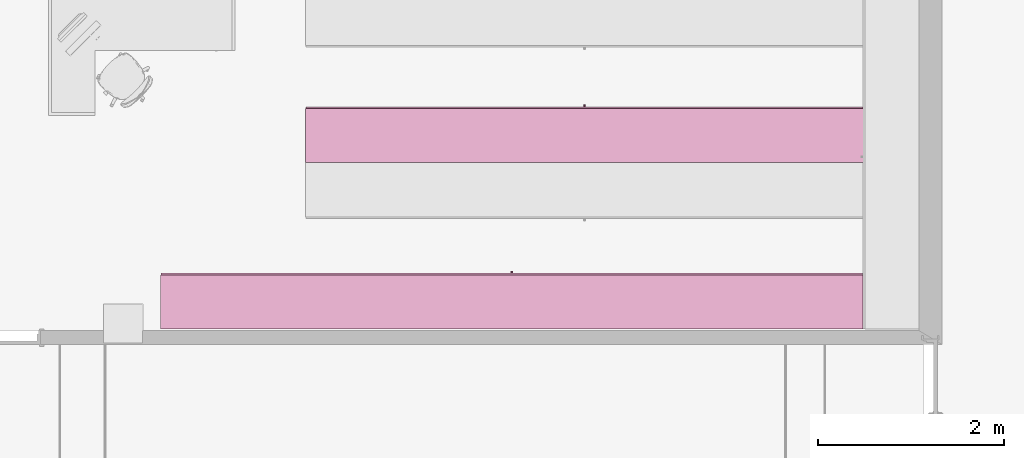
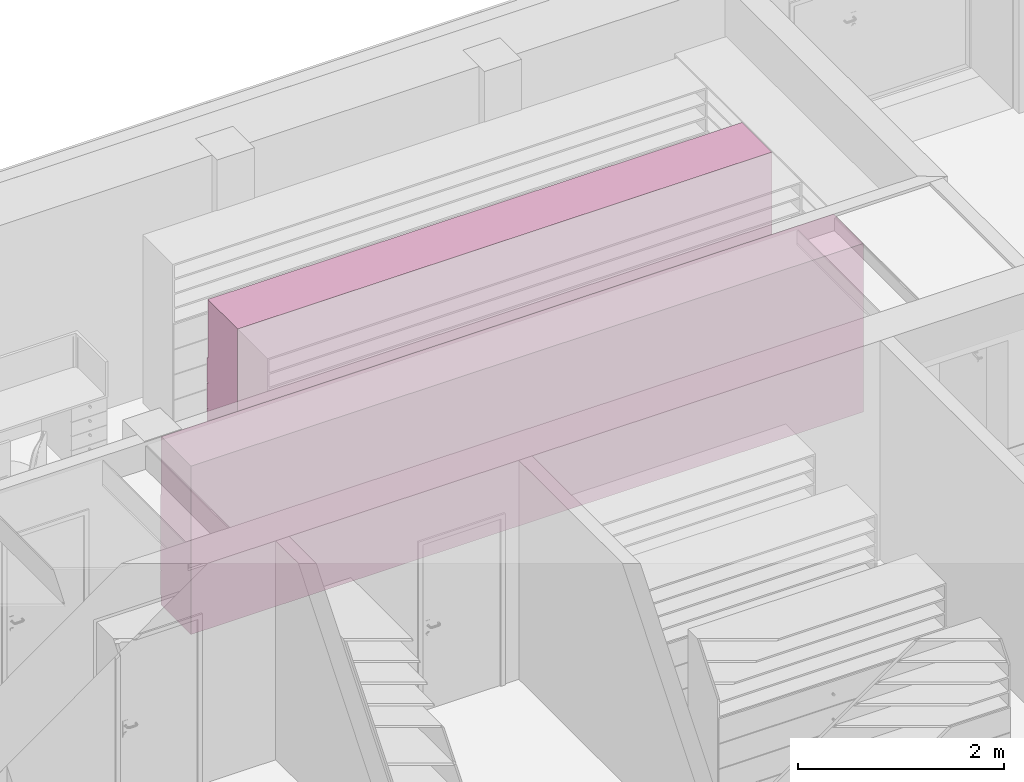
# One storey, part 112 of 127: 2 furnishings.
"""IFC2X3 building model written with IfcOpenShell, lengths in millimetres."""

from ifc_helpers import new_model, entity, si_unit, converted_unit, derived_unit, money_unit, direction, frame, origin_with_axes, place, context, subcontext, project, spatial, faceted_brep, type_object, element, save


model = new_model("IFC2X3")

# Units and contexts
model_context = context("Model", 3, precision=1e-05, world=origin_with_axes(), true_north=direction((0.0, 1.0)))
body_context = subcontext(model_context, "Body", "Model", "MODEL_VIEW")
ifc_project = project(units=[si_unit("LENGTHUNIT", "METRE", prefix="MILLI"), si_unit("AREAUNIT", "SQUARE_METRE"), si_unit("VOLUMEUNIT", "CUBIC_METRE"), converted_unit("PLANEANGLEUNIT", "DEGREE", entity("IfcPlaneAngleMeasure", 0.0174532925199), si_unit("PLANEANGLEUNIT", "RADIAN"), dimensions=[0, 0, 0, 0, 0, 0, 0]), si_unit("SOLIDANGLEUNIT", "STERADIAN"), money_unit("EUR"), converted_unit("TIMEUNIT", "Year", entity("IfcTimeMeasure", 31556926.0), si_unit("TIMEUNIT", "SECOND"), dimensions=[0, 0, 1, 0, 0, 0, 0]), si_unit("MASSUNIT", "GRAM", prefix="KILO"), si_unit("THERMODYNAMICTEMPERATUREUNIT", "DEGREE_CELSIUS"), si_unit("LUMINOUSINTENSITYUNIT", "LUMEN"), si_unit("ENERGYUNIT", "JOULE", prefix="MEGA"), derived_unit("THERMALCONDUCTANCEUNIT", [(si_unit("POWERUNIT", "WATT"), 1), (si_unit("LENGTHUNIT", "METRE"), -1), (si_unit("THERMODYNAMICTEMPERATUREUNIT", "KELVIN"), -1)]), derived_unit("SPECIFICHEATCAPACITYUNIT", [(si_unit("ENERGYUNIT", "JOULE"), 1), (si_unit("MASSUNIT", "GRAM", prefix="KILO"), -1), (si_unit("THERMODYNAMICTEMPERATUREUNIT", "KELVIN"), -1)]), derived_unit("MASSDENSITYUNIT", [(si_unit("MASSUNIT", "GRAM", prefix="KILO"), 1), (si_unit("VOLUMEUNIT", "CUBIC_METRE"), -1)])], contexts=[model_context])

# Site, building, storey
site_placement = place(None, origin_with_axes())
site = spatial("IfcSite", under=ifc_project, at=site_placement, Name="Site", CompositionType="ELEMENT")
building_placement = place(site_placement, origin_with_axes())
building = spatial("IfcBuilding", under=site, at=building_placement, Name="Building", CompositionType="ELEMENT")
storey_placement = place(building_placement, origin_with_axes())
storey = spatial("IfcBuildingStorey", under=building, at=storey_placement, Name="1 KORRUS", CompositionType="ELEMENT", Elevation=0.0)

# Furnishings
furnishing_element_type_1 = type_object("IfcFurnishingElementType", Name="Model Element 40")
furnishing_1_placement = place(storey_placement, frame((38908.1789758, 69853.6434458, 0.0), z_axis=(0.0, 0.0, 1.0), x_axis=(-1.0, 0.0, 0.0)))
element("IfcFurnishingElement", 1, at=furnishing_1_placement, inside=storey, type_object=furnishing_element_type_1, Name="FU - 003", context=body_context, shape_type="Brep", body=[
    faceted_brep([(6000.0, 19.0, 0.0), (0.0, 19.0, 0.0), (0.0, 600.000000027, 0.0), (6000.0, 600.000000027, 0.0), (6000.0, 19.0, 100.0), (0.0, 19.0, 100.0), (0.0, 600.000000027, 100.0), (6000.0, 600.000000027, 100.0)], [[[0, 1, 2, 3]], [[1, 0, 4, 5]], [[2, 1, 5, 6]], [[3, 2, 6, 7]], [[0, 3, 7, 4]], [[5, 4, 7, 6]]]),
    faceted_brep([(19.0, 600.000000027, 119.0), (19.0, 581.000000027, 119.0), (19.0, 581.000000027, 1981.0), (19.0, 600.000000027, 1981.0), (5981.0, 600.000000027, 119.0), (5981.0, 581.000000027, 119.0), (5981.0, 581.000000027, 1981.0), (5981.0, 600.000000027, 1981.0)], [[[0, 1, 2, 3]], [[0, 4, 5, 1]], [[1, 5, 6, 2]], [[3, 2, 6, 7]], [[4, 0, 3, 7]], [[5, 4, 7, 6]]]),
    faceted_brep([(6000.0, 19.0, 100.0), (5981.0, 19.0, 100.0), (5981.0, 600.000000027, 100.0), (6000.0, 600.000000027, 100.0), (6000.0, 19.0, 2000.0), (5981.0, 19.0, 2000.0), (5981.0, 600.000000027, 2000.0), (6000.0, 600.000000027, 2000.0)], [[[0, 1, 2, 3]], [[1, 0, 4, 5]], [[2, 1, 5, 6]], [[3, 2, 6, 7]], [[0, 3, 7, 4]], [[5, 4, 7, 6]]]),
    faceted_brep([(19.0, 19.0, 100.0), (0.0, 19.0, 100.0), (0.0, 600.000000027, 100.0), (19.0, 600.000000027, 100.0), (19.0, 19.0, 2000.0), (0.0, 19.0, 2000.0), (0.0, 600.000000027, 2000.0), (19.0, 600.000000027, 2000.0)], [[[0, 1, 2, 3]], [[1, 0, 4, 5]], [[2, 1, 5, 6]], [[3, 2, 6, 7]], [[0, 3, 7, 4]], [[5, 4, 7, 6]]]),
    faceted_brep([(5981.0, 19.0, 100.0), (19.0, 19.0, 100.0), (19.0, 600.000000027, 100.0), (5981.0, 600.000000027, 100.0), (5981.0, 19.0, 119.0), (19.0, 19.0, 119.0), (19.0, 600.000000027, 119.0), (5981.0, 600.000000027, 119.0)], [[[0, 1, 2, 3]], [[1, 0, 4, 5]], [[2, 1, 5, 6]], [[3, 2, 6, 7]], [[0, 3, 7, 4]], [[5, 4, 7, 6]]]),
    faceted_brep([(5981.0, 19.0, 1981.0), (19.0, 19.0, 1981.0), (19.0, 600.000000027, 1981.0), (5981.0, 600.000000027, 1981.0), (5981.0, 19.0, 2000.0), (19.0, 19.0, 2000.0), (19.0, 600.000000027, 2000.0), (5981.0, 600.000000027, 2000.0)], [[[0, 1, 2, 3]], [[1, 0, 4, 5]], [[2, 1, 5, 6]], [[3, 2, 6, 7]], [[0, 3, 7, 4]], [[5, 4, 7, 6]]]),
    faceted_brep([(5.0, 19.0, 105.0), (5995.0, 19.0, 105.0), (5995.0, 0.0, 105.0), (5.0, 0.0, 105.0), (5.0, 19.0, 395.0), (5995.0, 19.0, 395.0), (5995.0, 0.0, 395.0), (5.0, 0.0, 395.0)], [[[0, 1, 2, 3]], [[0, 4, 5, 1]], [[1, 5, 6, 2]], [[3, 2, 6, 7]], [[4, 0, 3, 7]], [[5, 4, 7, 6]]]),
    faceted_brep([(3010.39230485, 0.0, 244.0), (3006.0, 0.0, 239.607695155), (3000.0, 0.0, 238.0), (2994.0, 0.0, 239.607695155), (2989.60769515, 0.0, 244.0), (2988.0, 0.0, 250.0), (2989.60769515, 0.0, 256.0), (2994.0, 0.0, 260.392304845), (3000.0, 0.0, 262.0), (3006.0, 0.0, 260.392304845), (3010.39230485, 0.0, 256.0), (3012.0, 0.0, 250.0), (3010.39230485, -25.0, 244.0), (3006.0, -25.0, 239.607695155), (3000.0, -25.0, 238.0), (2994.0, -25.0, 239.607695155), (2989.60769515, -25.0, 244.0), (2988.0, -25.0, 250.0), (2989.60769515, -25.0, 256.0), (2994.0, -25.0, 260.392304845), (3000.0, -25.0, 262.0), (3006.0, -25.0, 260.392304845), (3010.39230485, -25.0, 256.0), (3012.0, -25.0, 250.0)], [[[0, 1, 2, 3, 4, 5, 6, 7, 8, 9, 10, 11]], [[1, 0, 12, 13]], [[2, 1, 13, 14]], [[3, 2, 14, 15]], [[4, 3, 15, 16]], [[5, 4, 16, 17]], [[6, 5, 17, 18]], [[7, 6, 18, 19]], [[8, 7, 19, 20]], [[9, 8, 20, 21]], [[10, 9, 21, 22]], [[11, 10, 22, 23]], [[0, 11, 23, 12]], [[12, 23, 22, 21, 20, 19, 18, 17, 16, 15, 14, 13]]]),
    faceted_brep([(5.0, 19.0, 405.0), (5995.0, 19.0, 405.0), (5995.0, 0.0, 405.0), (5.0, 0.0, 405.0), (5.0, 19.0, 695.0), (5995.0, 19.0, 695.0), (5995.0, 0.0, 695.0), (5.0, 0.0, 695.0)], [[[0, 1, 2, 3]], [[0, 4, 5, 1]], [[1, 5, 6, 2]], [[3, 2, 6, 7]], [[4, 0, 3, 7]], [[5, 4, 7, 6]]]),
    faceted_brep([(3010.39230485, 0.0, 544.0), (3006.0, 0.0, 539.607695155), (3000.0, 0.0, 538.0), (2994.0, 0.0, 539.607695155), (2989.60769515, 0.0, 544.0), (2988.0, 0.0, 550.0), (2989.60769515, 0.0, 556.0), (2994.0, 0.0, 560.392304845), (3000.0, 0.0, 562.0), (3006.0, 0.0, 560.392304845), (3010.39230485, 0.0, 556.0), (3012.0, 0.0, 550.0), (3010.39230485, -25.0, 544.0), (3006.0, -25.0, 539.607695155), (3000.0, -25.0, 538.0), (2994.0, -25.0, 539.607695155), (2989.60769515, -25.0, 544.0), (2988.0, -25.0, 550.0), (2989.60769515, -25.0, 556.0), (2994.0, -25.0, 560.392304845), (3000.0, -25.0, 562.0), (3006.0, -25.0, 560.392304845), (3010.39230485, -25.0, 556.0), (3012.0, -25.0, 550.0)], [[[0, 1, 2, 3, 4, 5, 6, 7, 8, 9, 10, 11]], [[1, 0, 12, 13]], [[2, 1, 13, 14]], [[3, 2, 14, 15]], [[4, 3, 15, 16]], [[5, 4, 16, 17]], [[6, 5, 17, 18]], [[7, 6, 18, 19]], [[8, 7, 19, 20]], [[9, 8, 20, 21]], [[10, 9, 21, 22]], [[11, 10, 22, 23]], [[0, 11, 23, 12]], [[12, 23, 22, 21, 20, 19, 18, 17, 16, 15, 14, 13]]]),
    faceted_brep([(5.0, 19.0, 705.0), (5995.0, 19.0, 705.0), (5995.0, 0.0, 705.0), (5.0, 0.0, 705.0), (5.0, 19.0, 995.0), (5995.0, 19.0, 995.0), (5995.0, 0.0, 995.0), (5.0, 0.0, 995.0)], [[[0, 1, 2, 3]], [[0, 4, 5, 1]], [[1, 5, 6, 2]], [[3, 2, 6, 7]], [[4, 0, 3, 7]], [[5, 4, 7, 6]]]),
    faceted_brep([(3010.39230485, 0.0, 844.0), (3006.0, 0.0, 839.607695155), (3000.0, 0.0, 838.0), (2994.0, 0.0, 839.607695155), (2989.60769515, 0.0, 844.0), (2988.0, 0.0, 850.0), (2989.60769515, 0.0, 856.0), (2994.0, 0.0, 860.392304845), (3000.0, 0.0, 862.0), (3006.0, 0.0, 860.392304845), (3010.39230485, 0.0, 856.0), (3012.0, 0.0, 850.0), (3010.39230485, -25.0, 844.0), (3006.0, -25.0, 839.607695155), (3000.0, -25.0, 838.0), (2994.0, -25.0, 839.607695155), (2989.60769515, -25.0, 844.0), (2988.0, -25.0, 850.0), (2989.60769515, -25.0, 856.0), (2994.0, -25.0, 860.392304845), (3000.0, -25.0, 862.0), (3006.0, -25.0, 860.392304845), (3010.39230485, -25.0, 856.0), (3012.0, -25.0, 850.0)], [[[0, 1, 2, 3, 4, 5, 6, 7, 8, 9, 10, 11]], [[1, 0, 12, 13]], [[2, 1, 13, 14]], [[3, 2, 14, 15]], [[4, 3, 15, 16]], [[5, 4, 16, 17]], [[6, 5, 17, 18]], [[7, 6, 18, 19]], [[8, 7, 19, 20]], [[9, 8, 20, 21]], [[10, 9, 21, 22]], [[11, 10, 22, 23]], [[0, 11, 23, 12]], [[12, 23, 22, 21, 20, 19, 18, 17, 16, 15, 14, 13]]]),
    faceted_brep([(5.0, 19.0, 1005.0), (5995.0, 19.0, 1005.0), (5995.0, 0.0, 1005.0), (5.0, 0.0, 1005.0), (5.0, 19.0, 1295.0), (5995.0, 19.0, 1295.0), (5995.0, 0.0, 1295.0), (5.0, 0.0, 1295.0)], [[[0, 1, 2, 3]], [[0, 4, 5, 1]], [[1, 5, 6, 2]], [[3, 2, 6, 7]], [[4, 0, 3, 7]], [[5, 4, 7, 6]]]),
    faceted_brep([(3010.39230485, 0.0, 1144.0), (3006.0, 0.0, 1139.60769515), (3000.0, 0.0, 1138.0), (2994.0, 0.0, 1139.60769515), (2989.60769515, 0.0, 1144.0), (2988.0, 0.0, 1150.0), (2989.60769515, 0.0, 1156.0), (2994.0, 0.0, 1160.39230485), (3000.0, 0.0, 1162.0), (3006.0, 0.0, 1160.39230485), (3010.39230485, 0.0, 1156.0), (3012.0, 0.0, 1150.0), (3010.39230485, -25.0, 1144.0), (3006.0, -25.0, 1139.60769515), (3000.0, -25.0, 1138.0), (2994.0, -25.0, 1139.60769515), (2989.60769515, -25.0, 1144.0), (2988.0, -25.0, 1150.0), (2989.60769515, -25.0, 1156.0), (2994.0, -25.0, 1160.39230485), (3000.0, -25.0, 1162.0), (3006.0, -25.0, 1160.39230485), (3010.39230485, -25.0, 1156.0), (3012.0, -25.0, 1150.0)], [[[0, 1, 2, 3, 4, 5, 6, 7, 8, 9, 10, 11]], [[1, 0, 12, 13]], [[2, 1, 13, 14]], [[3, 2, 14, 15]], [[4, 3, 15, 16]], [[5, 4, 16, 17]], [[6, 5, 17, 18]], [[7, 6, 18, 19]], [[8, 7, 19, 20]], [[9, 8, 20, 21]], [[10, 9, 21, 22]], [[11, 10, 22, 23]], [[0, 11, 23, 12]], [[12, 23, 22, 21, 20, 19, 18, 17, 16, 15, 14, 13]]]),
    faceted_brep([(19.0, 19.0, 390.5), (5981.0, 19.0, 390.5), (5981.0, 19.0, 409.5), (19.0, 19.0, 409.5), (19.0, 581.000000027, 390.5), (5981.0, 581.000000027, 390.5), (5981.0, 581.000000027, 409.5), (19.0, 581.000000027, 409.5)], [[[0, 1, 2, 3]], [[0, 4, 5, 1]], [[1, 5, 6, 2]], [[3, 2, 6, 7]], [[4, 0, 3, 7]], [[5, 4, 7, 6]]]),
    faceted_brep([(19.0, 19.0, 690.5), (5981.0, 19.0, 690.5), (5981.0, 19.0, 709.5), (19.0, 19.0, 709.5), (19.0, 581.000000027, 690.5), (5981.0, 581.000000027, 690.5), (5981.0, 581.000000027, 709.5), (19.0, 581.000000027, 709.5)], [[[0, 1, 2, 3]], [[0, 4, 5, 1]], [[1, 5, 6, 2]], [[3, 2, 6, 7]], [[4, 0, 3, 7]], [[5, 4, 7, 6]]]),
    faceted_brep([(19.0, 19.0, 990.5), (5981.0, 19.0, 990.5), (5981.0, 19.0, 1009.5), (19.0, 19.0, 1009.5), (19.0, 581.000000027, 990.5), (5981.0, 581.000000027, 990.5), (5981.0, 581.000000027, 1009.5), (19.0, 581.000000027, 1009.5)], [[[0, 1, 2, 3]], [[0, 4, 5, 1]], [[1, 5, 6, 2]], [[3, 2, 6, 7]], [[4, 0, 3, 7]], [[5, 4, 7, 6]]]),
    faceted_brep([(19.0, 19.0, 1290.5), (5981.0, 19.0, 1290.5), (5981.0, 19.0, 1309.5), (19.0, 19.0, 1309.5), (19.0, 581.000000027, 1290.5), (5981.0, 581.000000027, 1290.5), (5981.0, 581.000000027, 1309.5), (19.0, 581.000000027, 1309.5)], [[[0, 1, 2, 3]], [[0, 4, 5, 1]], [[1, 5, 6, 2]], [[3, 2, 6, 7]], [[4, 0, 3, 7]], [[5, 4, 7, 6]]]),
    faceted_brep([(5981.0, 19.0, 1463.125), (19.0, 19.0, 1463.125), (19.0, 581.000000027, 1463.125), (5981.0, 581.000000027, 1463.125), (5981.0, 19.0, 1482.125), (19.0, 19.0, 1482.125), (19.0, 581.000000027, 1482.125), (5981.0, 581.000000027, 1482.125)], [[[0, 1, 2, 3]], [[1, 0, 4, 5]], [[2, 1, 5, 6]], [[3, 2, 6, 7]], [[0, 3, 7, 4]], [[5, 4, 7, 6]]]),
    faceted_brep([(5981.0, 19.0, 1635.75), (19.0, 19.0, 1635.75), (19.0, 581.000000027, 1635.75), (5981.0, 581.000000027, 1635.75), (5981.0, 19.0, 1654.75), (19.0, 19.0, 1654.75), (19.0, 581.000000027, 1654.75), (5981.0, 581.000000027, 1654.75)], [[[0, 1, 2, 3]], [[1, 0, 4, 5]], [[2, 1, 5, 6]], [[3, 2, 6, 7]], [[0, 3, 7, 4]], [[5, 4, 7, 6]]]),
    faceted_brep([(5981.0, 19.0, 1808.375), (19.0, 19.0, 1808.375), (19.0, 581.000000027, 1808.375), (5981.0, 581.000000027, 1808.375), (5981.0, 19.0, 1827.375), (19.0, 19.0, 1827.375), (19.0, 581.000000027, 1827.375), (5981.0, 581.000000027, 1827.375)], [[[0, 1, 2, 3]], [[1, 0, 4, 5]], [[2, 1, 5, 6]], [[3, 2, 6, 7]], [[0, 3, 7, 4]], [[5, 4, 7, 6]]]),
])
furnishing_element_type_2 = type_object("IfcFurnishingElementType", Name="Model Element 39")
furnishing_2_placement = place(storey_placement, frame((38904.3426409, 68066.3044404, 0.0), z_axis=(0.0, 0.0, 1.0), x_axis=(-1.0, 0.0, 0.0)))
element("IfcFurnishingElement", 2, at=furnishing_2_placement, inside=storey, type_object=furnishing_element_type_2, Name="FU - 003", context=body_context, shape_type="Brep", body=[
    faceted_brep([(7552.18298721, 19.0, 0.0), (0.0, 19.0, 0.0), (0.0, 600.000000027, 0.0), (7552.18298721, 600.000000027, 0.0), (7552.18298721, 19.0, 100.0), (0.0, 19.0, 100.0), (0.0, 600.000000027, 100.0), (7552.18298721, 600.000000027, 100.0)], [[[0, 1, 2, 3]], [[1, 0, 4, 5]], [[2, 1, 5, 6]], [[3, 2, 6, 7]], [[0, 3, 7, 4]], [[5, 4, 7, 6]]]),
    faceted_brep([(19.0, 600.000000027, 119.0), (19.0, 581.000000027, 119.0), (19.0, 581.000000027, 1981.0), (19.0, 600.000000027, 1981.0), (7533.18298721, 600.000000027, 119.0), (7533.18298721, 581.000000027, 119.0), (7533.18298721, 581.000000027, 1981.0), (7533.18298721, 600.000000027, 1981.0)], [[[0, 1, 2, 3]], [[0, 4, 5, 1]], [[1, 5, 6, 2]], [[3, 2, 6, 7]], [[4, 0, 3, 7]], [[5, 4, 7, 6]]]),
    faceted_brep([(7552.18298721, 19.0, 100.0), (7533.18298721, 19.0, 100.0), (7533.18298721, 600.000000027, 100.0), (7552.18298721, 600.000000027, 100.0), (7552.18298721, 19.0, 2000.0), (7533.18298721, 19.0, 2000.0), (7533.18298721, 600.000000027, 2000.0), (7552.18298721, 600.000000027, 2000.0)], [[[0, 1, 2, 3]], [[1, 0, 4, 5]], [[2, 1, 5, 6]], [[3, 2, 6, 7]], [[0, 3, 7, 4]], [[5, 4, 7, 6]]]),
    faceted_brep([(19.0, 19.0, 100.0), (0.0, 19.0, 100.0), (0.0, 600.000000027, 100.0), (19.0, 600.000000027, 100.0), (19.0, 19.0, 2000.0), (0.0, 19.0, 2000.0), (0.0, 600.000000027, 2000.0), (19.0, 600.000000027, 2000.0)], [[[0, 1, 2, 3]], [[1, 0, 4, 5]], [[2, 1, 5, 6]], [[3, 2, 6, 7]], [[0, 3, 7, 4]], [[5, 4, 7, 6]]]),
    faceted_brep([(7533.18298721, 19.0, 100.0), (19.0, 19.0, 100.0), (19.0, 600.000000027, 100.0), (7533.18298721, 600.000000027, 100.0), (7533.18298721, 19.0, 119.0), (19.0, 19.0, 119.0), (19.0, 600.000000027, 119.0), (7533.18298721, 600.000000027, 119.0)], [[[0, 1, 2, 3]], [[1, 0, 4, 5]], [[2, 1, 5, 6]], [[3, 2, 6, 7]], [[0, 3, 7, 4]], [[5, 4, 7, 6]]]),
    faceted_brep([(7533.18298721, 19.0, 1981.0), (19.0, 19.0, 1981.0), (19.0, 600.000000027, 1981.0), (7533.18298721, 600.000000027, 1981.0), (7533.18298721, 19.0, 2000.0), (19.0, 19.0, 2000.0), (19.0, 600.000000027, 2000.0), (7533.18298721, 600.000000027, 2000.0)], [[[0, 1, 2, 3]], [[1, 0, 4, 5]], [[2, 1, 5, 6]], [[3, 2, 6, 7]], [[0, 3, 7, 4]], [[5, 4, 7, 6]]]),
    faceted_brep([(5.0, 19.0, 105.0), (7547.18298721, 19.0, 105.0), (7547.18298721, 0.0, 105.0), (5.0, 0.0, 105.0), (5.0, 19.0, 395.0), (7547.18298721, 19.0, 395.0), (7547.18298721, 0.0, 395.0), (5.0, 0.0, 395.0)], [[[0, 1, 2, 3]], [[0, 4, 5, 1]], [[1, 5, 6, 2]], [[3, 2, 6, 7]], [[4, 0, 3, 7]], [[5, 4, 7, 6]]]),
    faceted_brep([(3786.48379845, 0.0, 244.0), (3782.0914936, 0.0, 239.607695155), (3776.0914936, 0.0, 238.0), (3770.0914936, 0.0, 239.607695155), (3765.69918876, 0.0, 244.0), (3764.0914936, 0.0, 250.0), (3765.69918876, 0.0, 256.0), (3770.0914936, 0.0, 260.392304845), (3776.0914936, 0.0, 262.0), (3782.0914936, 0.0, 260.392304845), (3786.48379845, 0.0, 256.0), (3788.0914936, 0.0, 250.0), (3786.48379845, -25.0, 244.0), (3782.0914936, -25.0, 239.607695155), (3776.0914936, -25.0, 238.0), (3770.0914936, -25.0, 239.607695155), (3765.69918876, -25.0, 244.0), (3764.0914936, -25.0, 250.0), (3765.69918876, -25.0, 256.0), (3770.0914936, -25.0, 260.392304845), (3776.0914936, -25.0, 262.0), (3782.0914936, -25.0, 260.392304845), (3786.48379845, -25.0, 256.0), (3788.0914936, -25.0, 250.0)], [[[0, 1, 2, 3, 4, 5, 6, 7, 8, 9, 10, 11]], [[1, 0, 12, 13]], [[2, 1, 13, 14]], [[3, 2, 14, 15]], [[4, 3, 15, 16]], [[5, 4, 16, 17]], [[6, 5, 17, 18]], [[7, 6, 18, 19]], [[8, 7, 19, 20]], [[9, 8, 20, 21]], [[10, 9, 21, 22]], [[11, 10, 22, 23]], [[0, 11, 23, 12]], [[12, 23, 22, 21, 20, 19, 18, 17, 16, 15, 14, 13]]]),
    faceted_brep([(5.0, 19.0, 405.0), (7547.18298721, 19.0, 405.0), (7547.18298721, 0.0, 405.0), (5.0, 0.0, 405.0), (5.0, 19.0, 695.0), (7547.18298721, 19.0, 695.0), (7547.18298721, 0.0, 695.0), (5.0, 0.0, 695.0)], [[[0, 1, 2, 3]], [[0, 4, 5, 1]], [[1, 5, 6, 2]], [[3, 2, 6, 7]], [[4, 0, 3, 7]], [[5, 4, 7, 6]]]),
    faceted_brep([(3786.48379845, 0.0, 544.0), (3782.0914936, 0.0, 539.607695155), (3776.0914936, 0.0, 538.0), (3770.0914936, 0.0, 539.607695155), (3765.69918876, 0.0, 544.0), (3764.0914936, 0.0, 550.0), (3765.69918876, 0.0, 556.0), (3770.0914936, 0.0, 560.392304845), (3776.0914936, 0.0, 562.0), (3782.0914936, 0.0, 560.392304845), (3786.48379845, 0.0, 556.0), (3788.0914936, 0.0, 550.0), (3786.48379845, -25.0, 544.0), (3782.0914936, -25.0, 539.607695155), (3776.0914936, -25.0, 538.0), (3770.0914936, -25.0, 539.607695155), (3765.69918876, -25.0, 544.0), (3764.0914936, -25.0, 550.0), (3765.69918876, -25.0, 556.0), (3770.0914936, -25.0, 560.392304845), (3776.0914936, -25.0, 562.0), (3782.0914936, -25.0, 560.392304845), (3786.48379845, -25.0, 556.0), (3788.0914936, -25.0, 550.0)], [[[0, 1, 2, 3, 4, 5, 6, 7, 8, 9, 10, 11]], [[1, 0, 12, 13]], [[2, 1, 13, 14]], [[3, 2, 14, 15]], [[4, 3, 15, 16]], [[5, 4, 16, 17]], [[6, 5, 17, 18]], [[7, 6, 18, 19]], [[8, 7, 19, 20]], [[9, 8, 20, 21]], [[10, 9, 21, 22]], [[11, 10, 22, 23]], [[0, 11, 23, 12]], [[12, 23, 22, 21, 20, 19, 18, 17, 16, 15, 14, 13]]]),
    faceted_brep([(5.0, 19.0, 705.0), (7547.18298721, 19.0, 705.0), (7547.18298721, 0.0, 705.0), (5.0, 0.0, 705.0), (5.0, 19.0, 995.0), (7547.18298721, 19.0, 995.0), (7547.18298721, 0.0, 995.0), (5.0, 0.0, 995.0)], [[[0, 1, 2, 3]], [[0, 4, 5, 1]], [[1, 5, 6, 2]], [[3, 2, 6, 7]], [[4, 0, 3, 7]], [[5, 4, 7, 6]]]),
    faceted_brep([(3786.48379845, 0.0, 844.0), (3782.0914936, 0.0, 839.607695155), (3776.0914936, 0.0, 838.0), (3770.0914936, 0.0, 839.607695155), (3765.69918876, 0.0, 844.0), (3764.0914936, 0.0, 850.0), (3765.69918876, 0.0, 856.0), (3770.0914936, 0.0, 860.392304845), (3776.0914936, 0.0, 862.0), (3782.0914936, 0.0, 860.392304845), (3786.48379845, 0.0, 856.0), (3788.0914936, 0.0, 850.0), (3786.48379845, -25.0, 844.0), (3782.0914936, -25.0, 839.607695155), (3776.0914936, -25.0, 838.0), (3770.0914936, -25.0, 839.607695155), (3765.69918876, -25.0, 844.0), (3764.0914936, -25.0, 850.0), (3765.69918876, -25.0, 856.0), (3770.0914936, -25.0, 860.392304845), (3776.0914936, -25.0, 862.0), (3782.0914936, -25.0, 860.392304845), (3786.48379845, -25.0, 856.0), (3788.0914936, -25.0, 850.0)], [[[0, 1, 2, 3, 4, 5, 6, 7, 8, 9, 10, 11]], [[1, 0, 12, 13]], [[2, 1, 13, 14]], [[3, 2, 14, 15]], [[4, 3, 15, 16]], [[5, 4, 16, 17]], [[6, 5, 17, 18]], [[7, 6, 18, 19]], [[8, 7, 19, 20]], [[9, 8, 20, 21]], [[10, 9, 21, 22]], [[11, 10, 22, 23]], [[0, 11, 23, 12]], [[12, 23, 22, 21, 20, 19, 18, 17, 16, 15, 14, 13]]]),
    faceted_brep([(5.0, 19.0, 1005.0), (7547.18298721, 19.0, 1005.0), (7547.18298721, 0.0, 1005.0), (5.0, 0.0, 1005.0), (5.0, 19.0, 1295.0), (7547.18298721, 19.0, 1295.0), (7547.18298721, 0.0, 1295.0), (5.0, 0.0, 1295.0)], [[[0, 1, 2, 3]], [[0, 4, 5, 1]], [[1, 5, 6, 2]], [[3, 2, 6, 7]], [[4, 0, 3, 7]], [[5, 4, 7, 6]]]),
    faceted_brep([(3786.48379845, 0.0, 1144.0), (3782.0914936, 0.0, 1139.60769515), (3776.0914936, 0.0, 1138.0), (3770.0914936, 0.0, 1139.60769515), (3765.69918876, 0.0, 1144.0), (3764.0914936, 0.0, 1150.0), (3765.69918876, 0.0, 1156.0), (3770.0914936, 0.0, 1160.39230485), (3776.0914936, 0.0, 1162.0), (3782.0914936, 0.0, 1160.39230485), (3786.48379845, 0.0, 1156.0), (3788.0914936, 0.0, 1150.0), (3786.48379845, -25.0, 1144.0), (3782.0914936, -25.0, 1139.60769515), (3776.0914936, -25.0, 1138.0), (3770.0914936, -25.0, 1139.60769515), (3765.69918876, -25.0, 1144.0), (3764.0914936, -25.0, 1150.0), (3765.69918876, -25.0, 1156.0), (3770.0914936, -25.0, 1160.39230485), (3776.0914936, -25.0, 1162.0), (3782.0914936, -25.0, 1160.39230485), (3786.48379845, -25.0, 1156.0), (3788.0914936, -25.0, 1150.0)], [[[0, 1, 2, 3, 4, 5, 6, 7, 8, 9, 10, 11]], [[1, 0, 12, 13]], [[2, 1, 13, 14]], [[3, 2, 14, 15]], [[4, 3, 15, 16]], [[5, 4, 16, 17]], [[6, 5, 17, 18]], [[7, 6, 18, 19]], [[8, 7, 19, 20]], [[9, 8, 20, 21]], [[10, 9, 21, 22]], [[11, 10, 22, 23]], [[0, 11, 23, 12]], [[12, 23, 22, 21, 20, 19, 18, 17, 16, 15, 14, 13]]]),
    faceted_brep([(19.0, 19.0, 390.5), (7533.18298721, 19.0, 390.5), (7533.18298721, 19.0, 409.5), (19.0, 19.0, 409.5), (19.0, 581.000000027, 390.5), (7533.18298721, 581.000000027, 390.5), (7533.18298721, 581.000000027, 409.5), (19.0, 581.000000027, 409.5)], [[[0, 1, 2, 3]], [[0, 4, 5, 1]], [[1, 5, 6, 2]], [[3, 2, 6, 7]], [[4, 0, 3, 7]], [[5, 4, 7, 6]]]),
    faceted_brep([(19.0, 19.0, 690.5), (7533.18298721, 19.0, 690.5), (7533.18298721, 19.0, 709.5), (19.0, 19.0, 709.5), (19.0, 581.000000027, 690.5), (7533.18298721, 581.000000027, 690.5), (7533.18298721, 581.000000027, 709.5), (19.0, 581.000000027, 709.5)], [[[0, 1, 2, 3]], [[0, 4, 5, 1]], [[1, 5, 6, 2]], [[3, 2, 6, 7]], [[4, 0, 3, 7]], [[5, 4, 7, 6]]]),
    faceted_brep([(19.0, 19.0, 990.5), (7533.18298721, 19.0, 990.5), (7533.18298721, 19.0, 1009.5), (19.0, 19.0, 1009.5), (19.0, 581.000000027, 990.5), (7533.18298721, 581.000000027, 990.5), (7533.18298721, 581.000000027, 1009.5), (19.0, 581.000000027, 1009.5)], [[[0, 1, 2, 3]], [[0, 4, 5, 1]], [[1, 5, 6, 2]], [[3, 2, 6, 7]], [[4, 0, 3, 7]], [[5, 4, 7, 6]]]),
    faceted_brep([(19.0, 19.0, 1290.5), (7533.18298721, 19.0, 1290.5), (7533.18298721, 19.0, 1309.5), (19.0, 19.0, 1309.5), (19.0, 581.000000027, 1290.5), (7533.18298721, 581.000000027, 1290.5), (7533.18298721, 581.000000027, 1309.5), (19.0, 581.000000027, 1309.5)], [[[0, 1, 2, 3]], [[0, 4, 5, 1]], [[1, 5, 6, 2]], [[3, 2, 6, 7]], [[4, 0, 3, 7]], [[5, 4, 7, 6]]]),
    faceted_brep([(7533.18298721, 19.0, 1463.125), (19.0, 19.0, 1463.125), (19.0, 581.000000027, 1463.125), (7533.18298721, 581.000000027, 1463.125), (7533.18298721, 19.0, 1482.125), (19.0, 19.0, 1482.125), (19.0, 581.000000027, 1482.125), (7533.18298721, 581.000000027, 1482.125)], [[[0, 1, 2, 3]], [[1, 0, 4, 5]], [[2, 1, 5, 6]], [[3, 2, 6, 7]], [[0, 3, 7, 4]], [[5, 4, 7, 6]]]),
    faceted_brep([(7533.18298721, 19.0, 1635.75), (19.0, 19.0, 1635.75), (19.0, 581.000000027, 1635.75), (7533.18298721, 581.000000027, 1635.75), (7533.18298721, 19.0, 1654.75), (19.0, 19.0, 1654.75), (19.0, 581.000000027, 1654.75), (7533.18298721, 581.000000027, 1654.75)], [[[0, 1, 2, 3]], [[1, 0, 4, 5]], [[2, 1, 5, 6]], [[3, 2, 6, 7]], [[0, 3, 7, 4]], [[5, 4, 7, 6]]]),
    faceted_brep([(7533.18298721, 19.0, 1808.375), (19.0, 19.0, 1808.375), (19.0, 581.000000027, 1808.375), (7533.18298721, 581.000000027, 1808.375), (7533.18298721, 19.0, 1827.375), (19.0, 19.0, 1827.375), (19.0, 581.000000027, 1827.375), (7533.18298721, 581.000000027, 1827.375)], [[[0, 1, 2, 3]], [[1, 0, 4, 5]], [[2, 1, 5, 6]], [[3, 2, 6, 7]], [[0, 3, 7, 4]], [[5, 4, 7, 6]]]),
])

save(model, "model.ifc")
